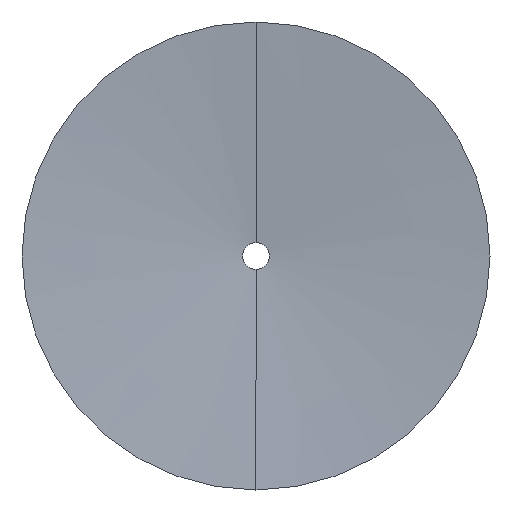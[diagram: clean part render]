
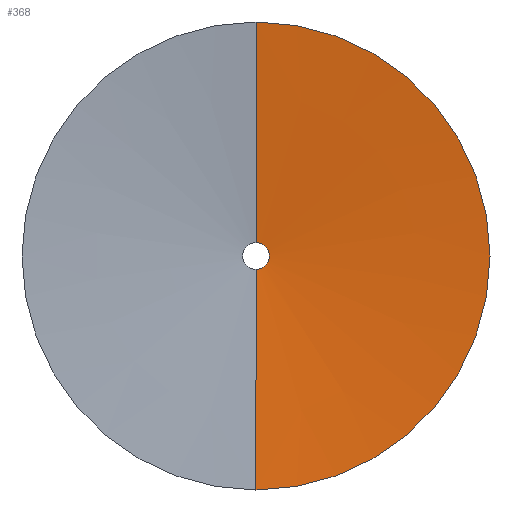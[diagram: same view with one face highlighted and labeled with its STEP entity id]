
A CAD part, left-side view. The second image highlights one B-rep face of the part: STEP entity #368.
In plain terms, the highlighted conical face has half-angle 84.806 degrees and reference radius 1 mm.
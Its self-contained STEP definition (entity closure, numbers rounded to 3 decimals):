
#22 = ORIENTED_EDGE ( 'NONE', *, *, #158, .T. ) ;
#27 = VERTEX_POINT ( 'NONE', #192 ) ;
#28 = ORIENTED_EDGE ( 'NONE', *, *, #720, .T. ) ;
#34 = CONICAL_SURFACE ( 'NONE', #262, 1., 1.48 ) ;
#58 = CARTESIAN_POINT ( 'NONE',  ( 1.5, 0., 1. ) ) ;
#66 = VERTEX_POINT ( 'NONE', #693 ) ;
#84 = CIRCLE ( 'NONE', #202, 1. ) ;
#123 = DIRECTION ( 'NONE',  ( 0., 0., 1. ) ) ;
#137 = DIRECTION ( 'NONE',  ( -0.091, 0., -0.996 ) ) ;
#158 = EDGE_CURVE ( 'NONE', #66, #27, #176, .T. ) ;
#170 = CARTESIAN_POINT ( 'NONE',  ( 1.5, 0., -1. ) ) ;
#176 = LINE ( 'NONE', #170, #696 ) ;
#186 = EDGE_CURVE ( 'NONE', #27, #562, #704, .T. ) ;
#192 = CARTESIAN_POINT ( 'NONE',  ( 0., 0., -17.5 ) ) ;
#202 = AXIS2_PLACEMENT_3D ( 'NONE', #310, #308, #302 ) ;
#206 = ORIENTED_EDGE ( 'NONE', *, *, #186, .T. ) ;
#262 = AXIS2_PLACEMENT_3D ( 'NONE', #718, #365, #593 ) ;
#270 = FACE_OUTER_BOUND ( 'NONE', #591, .T. ) ;
#302 = DIRECTION ( 'NONE',  ( 0., 0., 1. ) ) ;
#308 = DIRECTION ( 'NONE',  ( 1., 0., 0. ) ) ;
#310 = CARTESIAN_POINT ( 'NONE',  ( 1.5, 0., 0. ) ) ;
#320 = DIRECTION ( 'NONE',  ( -1., 0., 0. ) ) ;
#359 = AXIS2_PLACEMENT_3D ( 'NONE', #551, #320, #123 ) ;
#365 = DIRECTION ( 'NONE',  ( -1., 0., 0. ) ) ;
#368 = ADVANCED_FACE ( 'NONE', ( #270 ), #34, .F. ) ;
#369 = VERTEX_POINT ( 'NONE', #58 ) ;
#460 = VECTOR ( 'NONE', #741, 1000. ) ;
#547 = EDGE_CURVE ( 'NONE', #369, #562, #597, .T. ) ;
#551 = CARTESIAN_POINT ( 'NONE',  ( 0., 0., 0. ) ) ;
#562 = VERTEX_POINT ( 'NONE', #603 ) ;
#586 = CARTESIAN_POINT ( 'NONE',  ( 1.5, 0., 1. ) ) ;
#591 = EDGE_LOOP ( 'NONE', ( #28, #22, #206, #756 ) ) ;
#593 = DIRECTION ( 'NONE',  ( 0., 0., 1. ) ) ;
#597 = LINE ( 'NONE', #586, #460 ) ;
#603 = CARTESIAN_POINT ( 'NONE',  ( 0., 0., 17.5 ) ) ;
#693 = CARTESIAN_POINT ( 'NONE',  ( 1.5, 0., -1. ) ) ;
#696 = VECTOR ( 'NONE', #137, 1000. ) ;
#704 = CIRCLE ( 'NONE', #359, 17.5 ) ;
#718 = CARTESIAN_POINT ( 'NONE',  ( 1.5, 0., 0. ) ) ;
#720 = EDGE_CURVE ( 'NONE', #369, #66, #84, .T. ) ;
#741 = DIRECTION ( 'NONE',  ( -0.091, 0., 0.996 ) ) ;
#756 = ORIENTED_EDGE ( 'NONE', *, *, #547, .F. ) ;
